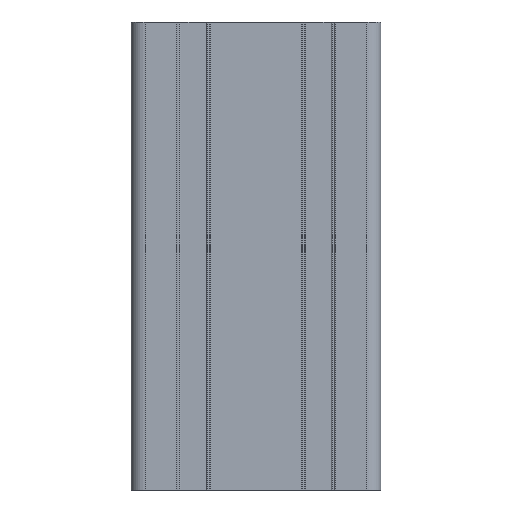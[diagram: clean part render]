
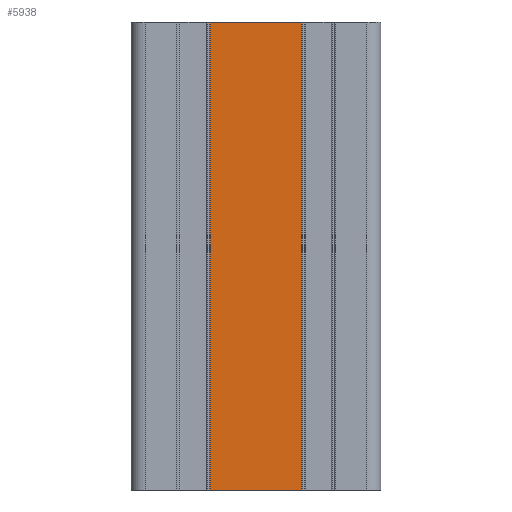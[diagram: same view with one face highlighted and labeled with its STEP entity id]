
A CAD part, front view. The second image highlights one B-rep face of the part: STEP entity #5938.
In plain terms, the highlighted planar face has unit normal (0, -1, 0).
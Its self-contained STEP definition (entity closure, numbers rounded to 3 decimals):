
#5880=CARTESIAN_POINT('',(256.999,96.452,150.0));
#5881=VERTEX_POINT('',#5880);
#5889=CARTESIAN_POINT('',(256.999,96.452,0.0));
#5890=VERTEX_POINT('',#5889);
#5891=CARTESIAN_POINT('',(256.999,96.452,0.0));
#5892=DIRECTION('',(0.0,0.0,1.0));
#5893=VECTOR('',#5892,150.0);
#5894=LINE('',#5891,#5893);
#5895=EDGE_CURVE('',#5890,#5881,#5894,.T.);
#5908=CARTESIAN_POINT('',(256.999,96.452,0.0));
#5909=DIRECTION('',(0.0,-1.0,0.0));
#5910=DIRECTION('',(0.0,0.0,-1.0));
#5911=AXIS2_PLACEMENT_3D('',#5908,#5909,#5910);
#5912=PLANE('',#5911);
#5913=CARTESIAN_POINT('',(227.799,96.452,150.0));
#5914=VERTEX_POINT('',#5913);
#5915=CARTESIAN_POINT('',(256.999,96.452,150.0));
#5916=DIRECTION('',(-1.0,0.0,0.0));
#5917=VECTOR('',#5916,29.2);
#5918=LINE('',#5915,#5917);
#5919=EDGE_CURVE('',#5881,#5914,#5918,.T.);
#5920=ORIENTED_EDGE('',*,*,#5919,.T.);
#5921=CARTESIAN_POINT('',(227.799,96.452,0.0));
#5922=VERTEX_POINT('',#5921);
#5923=CARTESIAN_POINT('',(227.799,96.452,0.0));
#5924=DIRECTION('',(0.0,0.0,1.0));
#5925=VECTOR('',#5924,150.0);
#5926=LINE('',#5923,#5925);
#5927=EDGE_CURVE('',#5922,#5914,#5926,.T.);
#5928=ORIENTED_EDGE('',*,*,#5927,.F.);
#5929=CARTESIAN_POINT('',(227.799,96.452,0.0));
#5930=DIRECTION('',(1.0,0.0,0.0));
#5931=VECTOR('',#5930,29.2);
#5932=LINE('',#5929,#5931);
#5933=EDGE_CURVE('',#5922,#5890,#5932,.T.);
#5934=ORIENTED_EDGE('',*,*,#5933,.T.);
#5935=ORIENTED_EDGE('',*,*,#5895,.T.);
#5936=EDGE_LOOP('',(#5920,#5928,#5934,#5935));
#5937=FACE_OUTER_BOUND('',#5936,.T.);
#5938=ADVANCED_FACE('',(#5937),#5912,.T.);
